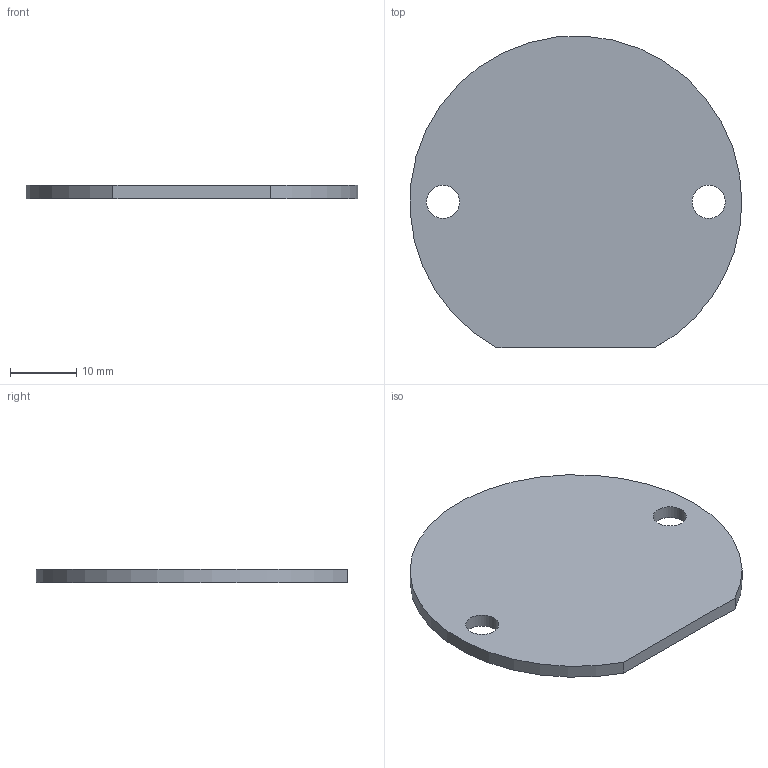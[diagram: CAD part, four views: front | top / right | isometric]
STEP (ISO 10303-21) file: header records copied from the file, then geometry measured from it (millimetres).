
FILE_DESCRIPTION(/* description */ (''),/* implementation_level */ '2;1');
FILE_NAME(/* name */ 'Pos150-1120 Cover 50 x 47-Aluminium-4st',/* time_stamp */ '2024-08-06T11:49:45+02:00',/* author */ (''),/* organization */ (''),/* preprocessor_version */ 'ST-DEVELOPER v16.5',/* originating_system */ 'HiCAD 2024 2901.2 Build 361',/* authorisation */ '');
FILE_SCHEMA (('AUTOMOTIVE_DESIGN { 1 0 10303 214 1 1 1 1 }'));
Length unit declared in the file: millimetre
Products named in the file (1): Pos150-1120 Cover 50 x 47-Aluminium-4st
Bounding box: 49.95 x 46.97 x 2 mm (x, y, z)
Volume: 3752.3 mm3; surface area: 4127.2 mm2
Topology: 1 solids, 1 shells, 6 faces, 16 edges, 12 vertices
Faces by surface type: cylinder 3, plane 3
Full cylindrical faces by diameter (mm): 5 x2
Entity records: 318 total; most frequent: DIRECTION 32, CARTESIAN_POINT 28, PRESENTATION_STYLE_ASSIGNMENT 25, COLOUR_RGB 25, DRAUGHTING_PRE_DEFINED_CURVE_FONT 24, CURVE_STYLE 24, OVER_RIDING_STYLED_ITEM 24, ORIENTED_EDGE 24
